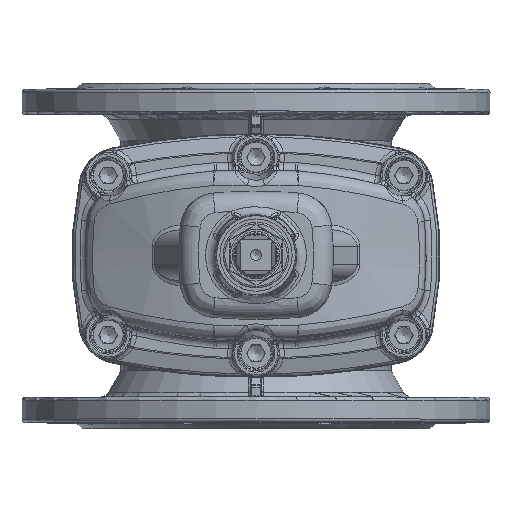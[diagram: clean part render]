
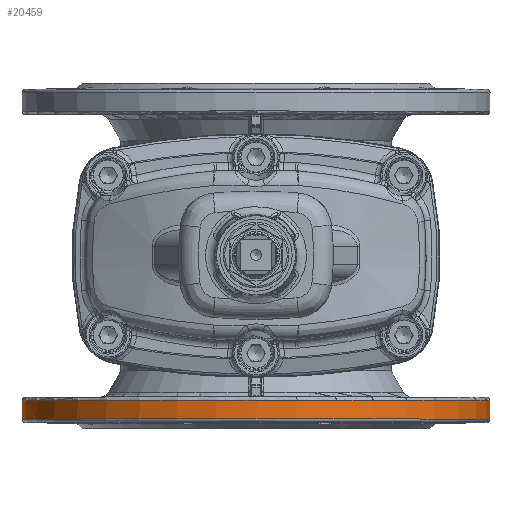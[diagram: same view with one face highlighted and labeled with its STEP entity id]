
A CAD part, top view. The second image highlights one B-rep face of the part: STEP entity #20459.
In plain terms, the highlighted cylindrical face has radius 142.403 mm (diameter 284.806 mm), a full revolution.
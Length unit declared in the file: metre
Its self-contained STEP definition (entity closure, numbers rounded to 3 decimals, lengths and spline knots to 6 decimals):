
#1400=CYLINDRICAL_SURFACE('',#22595,0.142403);
#2410=FACE_OUTER_BOUND('',#3761,.T.);
#3761=EDGE_LOOP('',(#17044,#17045,#17046,#17047,#17048,#17049,#17050,#17051,
#17052,#17053,#17054,#17055,#17056));
#4612=LINE('',#60629,#5311);
#4616=LINE('',#60679,#5315);
#4638=LINE('',#61045,#5337);
#5311=VECTOR('',#26565,0.009);
#5315=VECTOR('',#26589,0.009);
#5337=VECTOR('',#26739,0.142403);
#6300=B_SPLINE_CURVE_WITH_KNOTS('',3,(#60251,#60252,#60253,#60254,#60255,
#60256,#60257,#60258,#60259,#60260),.UNSPECIFIED.,.F.,.F.,(4,2,2,2,4),(0.310424,
0.390878,0.471332,0.546463,0.621595),
 .UNSPECIFIED.);
#6312=B_SPLINE_CURVE_WITH_KNOTS('',3,(#60684,#60685,#60686,#60687,#60688,
#60689,#60690,#60691,#60692,#60693),.UNSPECIFIED.,.F.,.F.,(4,2,2,2,4),(-0.000633,
0.,0.195652,0.310078,0.382998),.UNSPECIFIED.);
#6313=B_SPLINE_CURVE_WITH_KNOTS('',3,(#60763,#60764,#60765,#60766,#60767,
#60768,#60769,#60770,#60771,#60772,#60773,#60774),.UNSPECIFIED.,.F.,.F.,
(4,2,2,2,2,4),(0.000001,0.292447,0.584176,
1.165346,1.750316,2.330702),.UNSPECIFIED.);
#6314=B_SPLINE_CURVE_WITH_KNOTS('',3,(#60775,#60776,#60777,#60778,#60779,
#60780,#60781,#60782,#60783,#60784,#60785,#60786),.UNSPECIFIED.,.F.,.F.,
(4,2,2,2,2,4),(0.,0.580054,1.165363,1.455578,1.892272,
2.330708),.UNSPECIFIED.);
#7566=CIRCLE('',#22512,0.142403);
#7581=CIRCLE('',#22536,0.142403);
#7609=CIRCLE('',#22589,0.142403);
#7611=CIRCLE('',#22596,0.142403);
#7612=CIRCLE('',#22597,0.142403);
#9033=VERTEX_POINT('',#59045);
#9036=VERTEX_POINT('',#59053);
#9133=VERTEX_POINT('',#60245);
#9134=VERTEX_POINT('',#60249);
#9141=VERTEX_POINT('',#60627);
#9145=VERTEX_POINT('',#60676);
#9146=VERTEX_POINT('',#60678);
#9147=VERTEX_POINT('',#60682);
#9148=VERTEX_POINT('',#60762);
#9172=VERTEX_POINT('',#61044);
#9173=VERTEX_POINT('',#61046);
#11809=EDGE_CURVE('',#9033,#9133,#7566,.F.);
#11811=EDGE_CURVE('',#9133,#9134,#6300,.T.);
#11830=EDGE_CURVE('',#9134,#9141,#4612,.T.);
#11840=EDGE_CURVE('',#9146,#9145,#4616,.F.);
#11843=EDGE_CURVE('',#9145,#9147,#6312,.T.);
#11844=EDGE_CURVE('',#9147,#9036,#7581,.F.);
#11845=EDGE_CURVE('',#9148,#9033,#6313,.T.);
#11846=EDGE_CURVE('',#9036,#9148,#6314,.T.);
#11899=EDGE_CURVE('',#9141,#9146,#7609,.F.);
#11905=EDGE_CURVE('',#9148,#9172,#4638,.T.);
#11906=EDGE_CURVE('',#9173,#9172,#7611,.T.);
#11907=EDGE_CURVE('',#9172,#9173,#7612,.T.);
#17044=ORIENTED_EDGE('',*,*,#11844,.T.);
#17045=ORIENTED_EDGE('',*,*,#11846,.T.);
#17046=ORIENTED_EDGE('',*,*,#11905,.T.);
#17047=ORIENTED_EDGE('',*,*,#11906,.F.);
#17048=ORIENTED_EDGE('',*,*,#11907,.F.);
#17049=ORIENTED_EDGE('',*,*,#11905,.F.);
#17050=ORIENTED_EDGE('',*,*,#11845,.T.);
#17051=ORIENTED_EDGE('',*,*,#11809,.T.);
#17052=ORIENTED_EDGE('',*,*,#11811,.T.);
#17053=ORIENTED_EDGE('',*,*,#11830,.T.);
#17054=ORIENTED_EDGE('',*,*,#11899,.T.);
#17055=ORIENTED_EDGE('',*,*,#11840,.T.);
#17056=ORIENTED_EDGE('',*,*,#11843,.T.);
#20459=ADVANCED_FACE('',(#2410),#1400,.T.);
#22512=AXIS2_PLACEMENT_3D('',#60247,#26543,#26544);
#22536=AXIS2_PLACEMENT_3D('',#60695,#26598,#26599);
#22589=AXIS2_PLACEMENT_3D('',#61020,#26722,#26723);
#22595=AXIS2_PLACEMENT_3D('',#61043,#26737,#26738);
#22596=AXIS2_PLACEMENT_3D('',#61047,#26740,#26741);
#22597=AXIS2_PLACEMENT_3D('',#61048,#26742,#26743);
#26543=DIRECTION('center_axis',(0.,1.,0.));
#26544=DIRECTION('ref_axis',(0.163,0.,-0.987));
#26565=DIRECTION('',(0.,1.,0.));
#26589=DIRECTION('',(0.,1.,0.));
#26598=DIRECTION('center_axis',(0.,1.,0.));
#26599=DIRECTION('ref_axis',(-0.337,0.,-0.941));
#26722=DIRECTION('center_axis',(0.,1.,0.));
#26723=DIRECTION('ref_axis',(0.,0.,1.));
#26737=DIRECTION('center_axis',(0.,1.,0.));
#26738=DIRECTION('ref_axis',(0.,0.,1.));
#26739=DIRECTION('',(0.,-1.,0.));
#26740=DIRECTION('center_axis',(0.,-1.,0.));
#26741=DIRECTION('ref_axis',(0.,0.,-1.));
#26742=DIRECTION('center_axis',(0.,-1.,0.));
#26743=DIRECTION('ref_axis',(0.,0.,-1.));
#59045=CARTESIAN_POINT('',(0.023203,-0.099,-0.1405));
#59053=CARTESIAN_POINT('',(-0.023203,-0.099,-0.1405));
#60245=CARTESIAN_POINT('',(0.048,-0.099,-0.134069));
#60247=CARTESIAN_POINT('Origin',(0.,-0.099,0.));
#60249=CARTESIAN_POINT('',(0.05,-0.097,-0.133336));
#60251=CARTESIAN_POINT('Ctrl Pts',(0.048,-0.099,-0.134069));
#60252=CARTESIAN_POINT('Ctrl Pts',(0.048252,-0.099,-0.133979));
#60253=CARTESIAN_POINT('Ctrl Pts',(0.048522,-0.098949,
-0.133881));
#60254=CARTESIAN_POINT('Ctrl Pts',(0.049021,-0.098741,
-0.1337));
#60255=CARTESIAN_POINT('Ctrl Pts',(0.04925,-0.098582,
-0.133615));
#60256=CARTESIAN_POINT('Ctrl Pts',(0.049601,-0.098223,
-0.133486));
#60257=CARTESIAN_POINT('Ctrl Pts',(0.04975,-0.098003,
-0.13343));
#60258=CARTESIAN_POINT('Ctrl Pts',(0.04995,-0.097516,
-0.133355));
#60259=CARTESIAN_POINT('Ctrl Pts',(0.05,-0.09725,-0.133336));
#60260=CARTESIAN_POINT('Ctrl Pts',(0.05,-0.097,-0.133336));
#60627=CARTESIAN_POINT('',(0.05,-0.088,-0.133336));
#60629=CARTESIAN_POINT('',(0.05,-0.097,-0.133336));
#60676=CARTESIAN_POINT('',(-0.05128,-0.097,-0.13285));
#60678=CARTESIAN_POINT('',(-0.05128,-0.088,-0.13285));
#60679=CARTESIAN_POINT('',(-0.05128,-0.097,-0.13285));
#60682=CARTESIAN_POINT('',(-0.048056,-0.099,-0.134049));
#60684=CARTESIAN_POINT('Ctrl Pts',(-0.05128,-0.097,-0.13285));
#60685=CARTESIAN_POINT('Ctrl Pts',(-0.051278,-0.097001,
-0.13285));
#60686=CARTESIAN_POINT('Ctrl Pts',(-0.051277,-0.097003,
-0.132851));
#60687=CARTESIAN_POINT('Ctrl Pts',(-0.050847,-0.097467,
-0.133017));
#60688=CARTESIAN_POINT('Ctrl Pts',(-0.050425,-0.097919,
-0.133177));
#60689=CARTESIAN_POINT('Ctrl Pts',(-0.049656,-0.098497,
-0.133465));
#60690=CARTESIAN_POINT('Ctrl Pts',(-0.049298,-0.098721,
-0.133598));
#60691=CARTESIAN_POINT('Ctrl Pts',(-0.048611,-0.09895,
-0.133849));
#60692=CARTESIAN_POINT('Ctrl Pts',(-0.048335,-0.099,-0.133949));
#60693=CARTESIAN_POINT('Ctrl Pts',(-0.048056,-0.099,-0.134049));
#60695=CARTESIAN_POINT('Origin',(0.,-0.099,0.));
#60762=CARTESIAN_POINT('',(0.,-0.099,-0.142403));
#60763=CARTESIAN_POINT('Ctrl Pts',(0.,-0.099,
-0.142403));
#60764=CARTESIAN_POINT('Ctrl Pts',(0.000975,-0.099,
-0.142403));
#60765=CARTESIAN_POINT('Ctrl Pts',(0.00195,-0.099,
-0.142393));
#60766=CARTESIAN_POINT('Ctrl Pts',(0.003896,-0.099,
-0.142353));
#60767=CARTESIAN_POINT('Ctrl Pts',(0.004868,-0.099,
-0.142323));
#60768=CARTESIAN_POINT('Ctrl Pts',(0.007776,-0.099,
-0.142204));
#60769=CARTESIAN_POINT('Ctrl Pts',(0.009709,-0.099,
-0.142085));
#60770=CARTESIAN_POINT('Ctrl Pts',(0.013584,-0.099,
-0.141767));
#60771=CARTESIAN_POINT('Ctrl Pts',(0.015524,-0.099,
-0.141568));
#60772=CARTESIAN_POINT('Ctrl Pts',(0.019379,-0.099,
-0.141092));
#60773=CARTESIAN_POINT('Ctrl Pts',(0.021294,-0.099,
-0.140815));
#60774=CARTESIAN_POINT('Ctrl Pts',(0.023203,-0.099,-0.1405));
#60775=CARTESIAN_POINT('Ctrl Pts',(-0.023203,-0.099,-0.1405));
#60776=CARTESIAN_POINT('Ctrl Pts',(-0.021295,-0.099,
-0.140815));
#60777=CARTESIAN_POINT('Ctrl Pts',(-0.019381,-0.099,
-0.141091));
#60778=CARTESIAN_POINT('Ctrl Pts',(-0.015526,-0.099,
-0.141568));
#60779=CARTESIAN_POINT('Ctrl Pts',(-0.013585,-0.099,
-0.141767));
#60780=CARTESIAN_POINT('Ctrl Pts',(-0.010676,-0.099,
-0.142006));
#60781=CARTESIAN_POINT('Ctrl Pts',(-0.009711,-0.099,
-0.142075));
#60782=CARTESIAN_POINT('Ctrl Pts',(-0.007293,-0.099,
-0.142224));
#60783=CARTESIAN_POINT('Ctrl Pts',(-0.005839,-0.099,
-0.142291));
#60784=CARTESIAN_POINT('Ctrl Pts',(-0.002923,-0.099,
-0.14238));
#60785=CARTESIAN_POINT('Ctrl Pts',(-0.001461,-0.099,
-0.142403));
#60786=CARTESIAN_POINT('Ctrl Pts',(0.,-0.099,
-0.142403));
#61020=CARTESIAN_POINT('Origin',(0.,-0.088,0.));
#61043=CARTESIAN_POINT('Origin',(0.,0.,0.));
#61044=CARTESIAN_POINT('',(0.,-0.099369,-0.142403));
#61045=CARTESIAN_POINT('',(0.,0.,-0.142403));
#61046=CARTESIAN_POINT('',(0.,-0.099369,0.142403));
#61047=CARTESIAN_POINT('Origin',(0.,-0.099369,0.));
#61048=CARTESIAN_POINT('Origin',(0.,-0.099369,0.));
